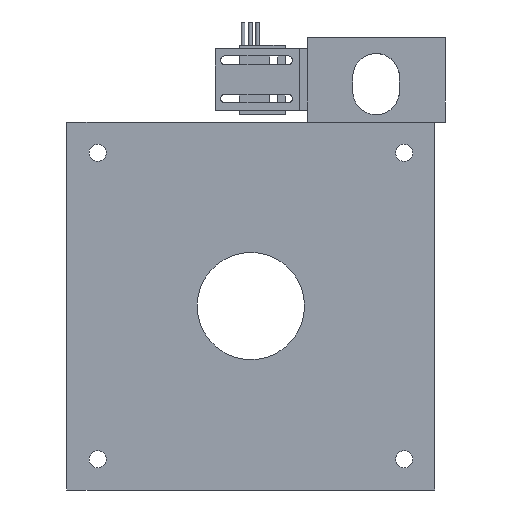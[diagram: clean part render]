
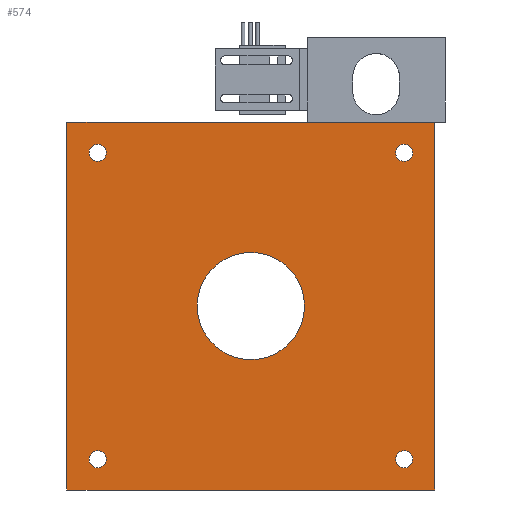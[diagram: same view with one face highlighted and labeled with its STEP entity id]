
A CAD part, front view. The second image highlights one B-rep face of the part: STEP entity #574.
In plain terms, the highlighted planar face has unit normal (0, -1, 0).
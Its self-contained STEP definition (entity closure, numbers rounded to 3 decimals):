
#93=DIRECTION('',(0.,0.,-1.));
#94=VECTOR('',#93,152.4);
#95=CARTESIAN_POINT('',(-76.2,-40.386,76.2));
#96=LINE('',#95,#94);
#97=DIRECTION('',(-1.,0.,0.));
#98=VECTOR('',#97,152.4);
#99=CARTESIAN_POINT('',(76.2,-40.386,76.2));
#100=LINE('',#99,#98);
#101=DIRECTION('',(0.,0.,1.));
#102=VECTOR('',#101,152.4);
#103=CARTESIAN_POINT('',(76.2,-40.386,-76.2));
#104=LINE('',#103,#102);
#105=DIRECTION('',(1.,0.,0.));
#106=VECTOR('',#105,152.4);
#107=CARTESIAN_POINT('',(-76.2,-40.386,-76.2));
#108=LINE('',#107,#106);
#109=CARTESIAN_POINT('',(63.5,-40.386,-63.5));
#110=DIRECTION('',(0.,1.,0.));
#111=DIRECTION('',(-1.,0.,0.));
#112=AXIS2_PLACEMENT_3D('',#109,#110,#111);
#114=CARTESIAN_POINT('',(63.5,-40.386,-63.5));
#115=DIRECTION('',(0.,1.,0.));
#116=DIRECTION('',(1.,0.,0.));
#117=AXIS2_PLACEMENT_3D('',#114,#115,#116);
#119=CARTESIAN_POINT('',(63.5,-40.386,63.5));
#120=DIRECTION('',(0.,-1.,0.));
#121=DIRECTION('',(-1.,0.,0.));
#122=AXIS2_PLACEMENT_3D('',#119,#120,#121);
#124=CARTESIAN_POINT('',(63.5,-40.386,63.5));
#125=DIRECTION('',(0.,-1.,0.));
#126=DIRECTION('',(1.,0.,0.));
#127=AXIS2_PLACEMENT_3D('',#124,#125,#126);
#129=CARTESIAN_POINT('',(-63.5,-40.386,-63.5));
#130=DIRECTION('',(0.,-1.,0.));
#131=DIRECTION('',(1.,0.,0.));
#132=AXIS2_PLACEMENT_3D('',#129,#130,#131);
#134=CARTESIAN_POINT('',(-63.5,-40.386,-63.5));
#135=DIRECTION('',(0.,-1.,0.));
#136=DIRECTION('',(-1.,0.,0.));
#137=AXIS2_PLACEMENT_3D('',#134,#135,#136);
#139=CARTESIAN_POINT('',(-63.5,-40.386,63.5));
#140=DIRECTION('',(0.,1.,0.));
#141=DIRECTION('',(1.,0.,0.));
#142=AXIS2_PLACEMENT_3D('',#139,#140,#141);
#144=CARTESIAN_POINT('',(-63.5,-40.386,63.5));
#145=DIRECTION('',(0.,1.,0.));
#146=DIRECTION('',(-1.,0.,0.));
#147=AXIS2_PLACEMENT_3D('',#144,#145,#146);
#149=CARTESIAN_POINT('',(0.,-40.386,0.));
#150=DIRECTION('',(0.,-1.,0.));
#151=DIRECTION('',(1.,0.,0.));
#152=AXIS2_PLACEMENT_3D('',#149,#150,#151);
#154=CARTESIAN_POINT('',(0.,-40.386,0.));
#155=DIRECTION('',(0.,-1.,0.));
#156=DIRECTION('',(-1.,0.,0.));
#157=AXIS2_PLACEMENT_3D('',#154,#155,#156);
#337=CARTESIAN_POINT('',(-76.2,-40.386,76.2));
#338=CARTESIAN_POINT('',(-76.2,-40.386,-76.2));
#339=VERTEX_POINT('',#337);
#340=VERTEX_POINT('',#338);
#341=CARTESIAN_POINT('',(76.2,-40.386,-76.2));
#342=VERTEX_POINT('',#341);
#343=CARTESIAN_POINT('',(76.2,-40.386,76.2));
#344=VERTEX_POINT('',#343);
#345=CARTESIAN_POINT('',(59.944,-40.386,-63.5));
#346=CARTESIAN_POINT('',(67.056,-40.386,-63.5));
#347=VERTEX_POINT('',#345);
#348=VERTEX_POINT('',#346);
#361=CARTESIAN_POINT('',(59.944,-40.386,63.5));
#362=CARTESIAN_POINT('',(67.056,-40.386,63.5));
#363=VERTEX_POINT('',#361);
#364=VERTEX_POINT('',#362);
#365=CARTESIAN_POINT('',(-59.944,-40.386,-63.5));
#366=CARTESIAN_POINT('',(-67.056,-40.386,-63.5));
#367=VERTEX_POINT('',#365);
#368=VERTEX_POINT('',#366);
#369=CARTESIAN_POINT('',(-59.944,-40.386,63.5));
#370=CARTESIAN_POINT('',(-67.056,-40.386,63.5));
#371=VERTEX_POINT('',#369);
#372=VERTEX_POINT('',#370);
#413=CARTESIAN_POINT('',(22.225,-40.386,0.));
#414=CARTESIAN_POINT('',(-22.225,-40.386,0.));
#415=VERTEX_POINT('',#413);
#416=VERTEX_POINT('',#414);
#533=CARTESIAN_POINT('',(0.,-40.386,0.));
#534=DIRECTION('',(0.,-1.,0.));
#535=DIRECTION('',(0.,0.,-1.));
#536=AXIS2_PLACEMENT_3D('',#533,#534,#535);
#537=PLANE('',#536);
#538=ORIENTED_EDGE('',*,*,#479,.F.);
#539=ORIENTED_EDGE('',*,*,#494,.F.);
#540=ORIENTED_EDGE('',*,*,#514,.F.);
#541=ORIENTED_EDGE('',*,*,#527,.F.);
#542=EDGE_LOOP('',(#538,#539,#540,#541));
#543=FACE_OUTER_BOUND('',#542,.F.);
#545=ORIENTED_EDGE('',*,*,#544,.F.);
#547=ORIENTED_EDGE('',*,*,#546,.F.);
#548=EDGE_LOOP('',(#545,#547));
#549=FACE_BOUND('',#548,.F.);
#551=ORIENTED_EDGE('',*,*,#550,.T.);
#553=ORIENTED_EDGE('',*,*,#552,.T.);
#554=EDGE_LOOP('',(#551,#553));
#555=FACE_BOUND('',#554,.F.);
#557=ORIENTED_EDGE('',*,*,#556,.T.);
#559=ORIENTED_EDGE('',*,*,#558,.T.);
#560=EDGE_LOOP('',(#557,#559));
#561=FACE_BOUND('',#560,.F.);
#563=ORIENTED_EDGE('',*,*,#562,.F.);
#565=ORIENTED_EDGE('',*,*,#564,.F.);
#566=EDGE_LOOP('',(#563,#565));
#567=FACE_BOUND('',#566,.F.);
#569=ORIENTED_EDGE('',*,*,#568,.T.);
#571=ORIENTED_EDGE('',*,*,#570,.T.);
#572=EDGE_LOOP('',(#569,#571));
#573=FACE_BOUND('',#572,.F.);
#574=ADVANCED_FACE('',(#543,#549,#555,#561,#567,#573),#537,.T.);
#113=CIRCLE('',#112,3.556);
#118=CIRCLE('',#117,3.556);
#123=CIRCLE('',#122,3.556);
#128=CIRCLE('',#127,3.556);
#133=CIRCLE('',#132,3.556);
#138=CIRCLE('',#137,3.556);
#143=CIRCLE('',#142,3.556);
#148=CIRCLE('',#147,3.556);
#153=CIRCLE('',#152,22.225);
#158=CIRCLE('',#157,22.225);
#479=EDGE_CURVE('',#339,#340,#96,.T.);
#494=EDGE_CURVE('',#344,#339,#100,.T.);
#514=EDGE_CURVE('',#342,#344,#104,.T.);
#527=EDGE_CURVE('',#340,#342,#108,.T.);
#544=EDGE_CURVE('',#347,#348,#113,.T.);
#546=EDGE_CURVE('',#348,#347,#118,.T.);
#550=EDGE_CURVE('',#363,#364,#123,.T.);
#552=EDGE_CURVE('',#364,#363,#128,.T.);
#556=EDGE_CURVE('',#367,#368,#133,.T.);
#558=EDGE_CURVE('',#368,#367,#138,.T.);
#562=EDGE_CURVE('',#371,#372,#143,.T.);
#564=EDGE_CURVE('',#372,#371,#148,.T.);
#568=EDGE_CURVE('',#415,#416,#153,.T.);
#570=EDGE_CURVE('',#416,#415,#158,.T.);
